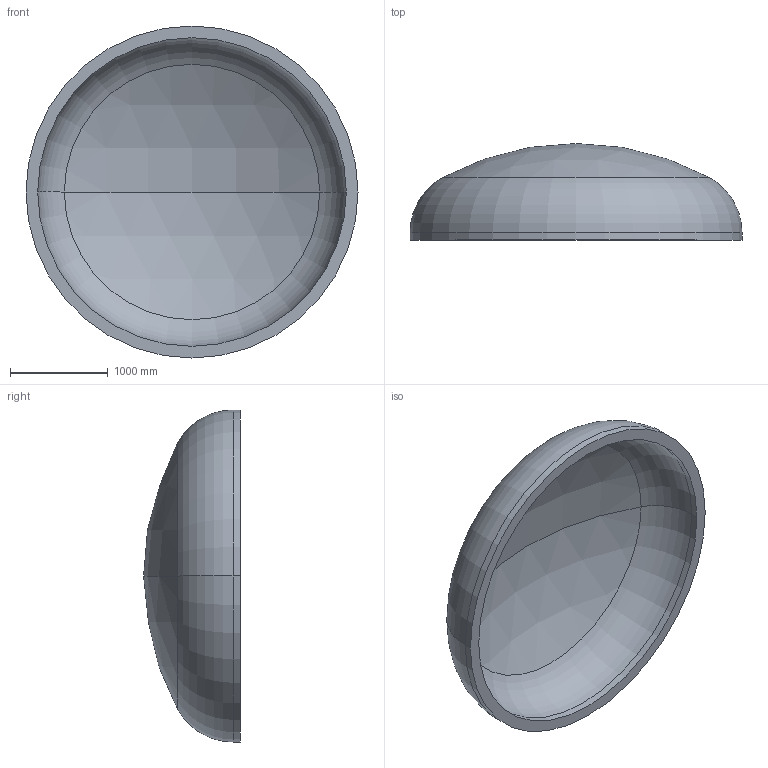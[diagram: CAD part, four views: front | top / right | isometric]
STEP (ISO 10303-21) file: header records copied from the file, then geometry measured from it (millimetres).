
FILE_DESCRIPTION (( 'STEP AP203' ), '1' );
FILE_NAME ('DIN 28013 Korbbogenform_-_Boden DIN 28013 - 3400 x 75 - I - s=120.step', '2016-07-01T19:59:09', ( '' ), ( '' ), 'SwSTEP 2.0', 'SolidWorks 2013', '' );
FILE_SCHEMA (( 'CONFIG_CONTROL_DESIGN' ));
Length unit declared in the file: millimetre
Products named in the file (1): DIN 28013 Korbbogenform_-_Boden DIN 28013 - 3400 x 75 - I - s=120
Bounding box: 3400 x 990.16 x 3400 mm (x, y, z)
Volume: 1534758243.2 mm3; surface area: 26845985.9 mm2
Topology: 1 solids, 1 shells, 13 faces, 24 edges, 14 vertices
Faces by surface type: torus 4, cylinder 4, sphere 4, plane 1
Entity records: 407 total; most frequent: DIRECTION 72, CARTESIAN_POINT 52, ORIENTED_EDGE 48, AXIS2_PLACEMENT_3D 34, EDGE_CURVE 24, CIRCLE 20, EDGE_LOOP 14, VERTEX_POINT 14
